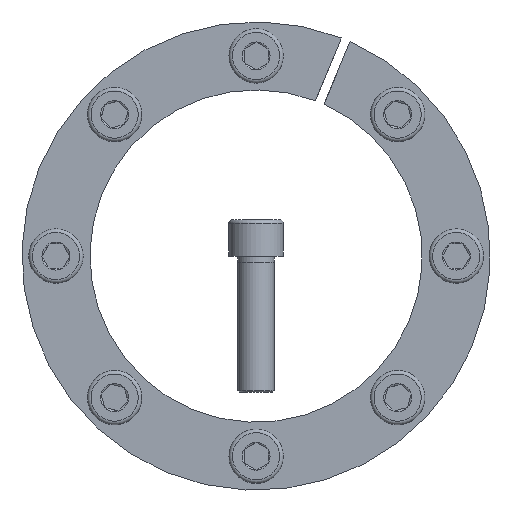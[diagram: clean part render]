
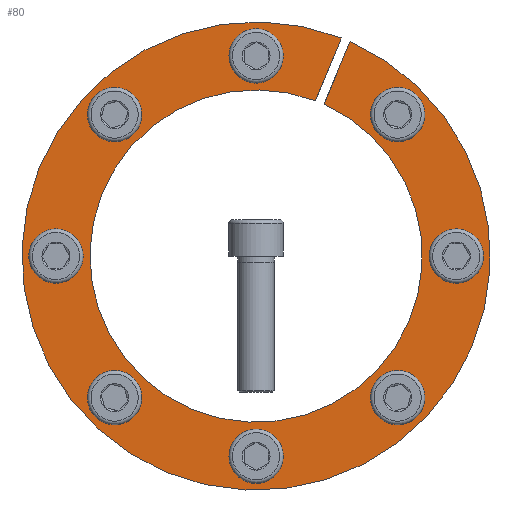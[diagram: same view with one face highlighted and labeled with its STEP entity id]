
A CAD part, front view. The second image highlights one B-rep face of the part: STEP entity #80.
In plain terms, the highlighted planar face has unit normal (0, -1, 0).
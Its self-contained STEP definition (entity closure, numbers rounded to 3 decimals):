
#80 = ADVANCED_FACE( '', ( #185, #186, #187, #188, #189, #190, #191, #192, #193 ), #194, .T. );
#185 = FACE_BOUND( '', #353, .T. );
#186 = FACE_BOUND( '', #354, .T. );
#187 = FACE_BOUND( '', #355, .T. );
#188 = FACE_BOUND( '', #356, .T. );
#189 = FACE_BOUND( '', #357, .T. );
#190 = FACE_BOUND( '', #358, .T. );
#191 = FACE_BOUND( '', #359, .T. );
#192 = FACE_BOUND( '', #360, .T. );
#193 = FACE_OUTER_BOUND( '', #361, .T. );
#194 = PLANE( '', #362 );
#353 = EDGE_LOOP( '', ( #558 ) );
#354 = EDGE_LOOP( '', ( #559 ) );
#355 = EDGE_LOOP( '', ( #560 ) );
#356 = EDGE_LOOP( '', ( #561 ) );
#357 = EDGE_LOOP( '', ( #562 ) );
#358 = EDGE_LOOP( '', ( #563 ) );
#359 = EDGE_LOOP( '', ( #564 ) );
#360 = EDGE_LOOP( '', ( #565 ) );
#361 = EDGE_LOOP( '', ( #566, #567, #568, #569 ) );
#362 = AXIS2_PLACEMENT_3D( '', #570, #571, #572 );
#558 = ORIENTED_EDGE( '', *, *, #839, .T. );
#559 = ORIENTED_EDGE( '', *, *, #862, .T. );
#560 = ORIENTED_EDGE( '', *, *, #863, .T. );
#561 = ORIENTED_EDGE( '', *, *, #864, .T. );
#562 = ORIENTED_EDGE( '', *, *, #865, .T. );
#563 = ORIENTED_EDGE( '', *, *, #866, .T. );
#564 = ORIENTED_EDGE( '', *, *, #867, .T. );
#565 = ORIENTED_EDGE( '', *, *, #868, .T. );
#566 = ORIENTED_EDGE( '', *, *, #869, .F. );
#567 = ORIENTED_EDGE( '', *, *, #870, .T. );
#568 = ORIENTED_EDGE( '', *, *, #871, .T. );
#569 = ORIENTED_EDGE( '', *, *, #872, .T. );
#570 = CARTESIAN_POINT( '', ( 0., 0., 55. ) );
#571 = DIRECTION( '', ( 0., -1., 0. ) );
#572 = DIRECTION( '', ( 0., 0., -1. ) );
#839 = EDGE_CURVE( '', #998, #998, #999, .T. );
#862 = EDGE_CURVE( '', #1040, #1040, #1041, .T. );
#863 = EDGE_CURVE( '', #1042, #1042, #1043, .T. );
#864 = EDGE_CURVE( '', #1044, #1044, #1045, .T. );
#865 = EDGE_CURVE( '', #1046, #1046, #1047, .T. );
#866 = EDGE_CURVE( '', #1048, #1048, #1049, .T. );
#867 = EDGE_CURVE( '', #1050, #1050, #1051, .T. );
#868 = EDGE_CURVE( '', #1052, #1052, #1053, .T. );
#869 = EDGE_CURVE( '', #1054, #1055, #1056, .T. );
#870 = EDGE_CURVE( '', #1054, #1057, #1058, .T. );
#871 = EDGE_CURVE( '', #1057, #1059, #1060, .T. );
#872 = EDGE_CURVE( '', #1059, #1055, #1061, .T. );
#998 = VERTEX_POINT( '', #1297 );
#999 = CIRCLE( '', #1298, 6. );
#1040 = VERTEX_POINT( '', #1343 );
#1041 = CIRCLE( '', #1344, 6. );
#1042 = VERTEX_POINT( '', #1345 );
#1043 = CIRCLE( '', #1346, 6. );
#1044 = VERTEX_POINT( '', #1347 );
#1045 = CIRCLE( '', #1348, 6. );
#1046 = VERTEX_POINT( '', #1349 );
#1047 = CIRCLE( '', #1350, 6. );
#1048 = VERTEX_POINT( '', #1351 );
#1049 = CIRCLE( '', #1352, 6. );
#1050 = VERTEX_POINT( '', #1353 );
#1051 = CIRCLE( '', #1354, 6. );
#1052 = VERTEX_POINT( '', #1355 );
#1053 = CIRCLE( '', #1356, 6. );
#1054 = VERTEX_POINT( '', #1357 );
#1055 = VERTEX_POINT( '', #1358 );
#1056 = CIRCLE( '', #1359, 55. );
#1057 = VERTEX_POINT( '', #1360 );
#1058 = LINE( '', #1361, #1362 );
#1059 = VERTEX_POINT( '', #1363 );
#1060 = CIRCLE( '', #1364, 77.5 );
#1061 = LINE( '', #1365, #1366 );
#1297 = CARTESIAN_POINT( '', ( 6., 0., 66.25 ) );
#1298 = AXIS2_PLACEMENT_3D( '', #1517, #1518, #1519 );
#1343 = CARTESIAN_POINT( '', ( 51.088, 0., 42.603 ) );
#1344 = AXIS2_PLACEMENT_3D( '', #1566, #1567, #1568 );
#1345 = CARTESIAN_POINT( '', ( 66.25, 0., -6. ) );
#1346 = AXIS2_PLACEMENT_3D( '', #1569, #1570, #1571 );
#1347 = CARTESIAN_POINT( '', ( 42.603, 0., -51.088 ) );
#1348 = AXIS2_PLACEMENT_3D( '', #1572, #1573, #1574 );
#1349 = CARTESIAN_POINT( '', ( -6., 0., -66.25 ) );
#1350 = AXIS2_PLACEMENT_3D( '', #1575, #1576, #1577 );
#1351 = CARTESIAN_POINT( '', ( -51.088, 0., -42.603 ) );
#1352 = AXIS2_PLACEMENT_3D( '', #1578, #1579, #1580 );
#1353 = CARTESIAN_POINT( '', ( -66.25, 0., 6. ) );
#1354 = AXIS2_PLACEMENT_3D( '', #1581, #1582, #1583 );
#1355 = CARTESIAN_POINT( '', ( -42.603, 0., 51.088 ) );
#1356 = AXIS2_PLACEMENT_3D( '', #1584, #1585, #1586 );
#1357 = CARTESIAN_POINT( '', ( 19.607, 0., 51.386 ) );
#1358 = CARTESIAN_POINT( '', ( 22.471, 0., 50.2 ) );
#1359 = AXIS2_PLACEMENT_3D( '', #1587, #1588, #1589 );
#1360 = CARTESIAN_POINT( '', ( 28.22, 0., 72.18 ) );
#1361 = CARTESIAN_POINT( '', ( 19.607, 0., 51.386 ) );
#1362 = VECTOR( '', #1590, 1000. );
#1363 = CARTESIAN_POINT( '', ( 31.084, 0., 70.993 ) );
#1364 = AXIS2_PLACEMENT_3D( '', #1591, #1592, #1593 );
#1365 = CARTESIAN_POINT( '', ( 31.09, 0., 71.008 ) );
#1366 = VECTOR( '', #1594, 1000. );
#1517 = CARTESIAN_POINT( '', ( 0., 0., 66.25 ) );
#1518 = DIRECTION( '', ( 0., 1., 0. ) );
#1519 = DIRECTION( '', ( 1., 0., 0. ) );
#1566 = CARTESIAN_POINT( '', ( 46.846, 0., 46.846 ) );
#1567 = DIRECTION( '', ( 0., 1., 0. ) );
#1568 = DIRECTION( '', ( 0.707, 0., -0.707 ) );
#1569 = CARTESIAN_POINT( '', ( 66.25, 0., 0. ) );
#1570 = DIRECTION( '', ( 0., 1., 0. ) );
#1571 = DIRECTION( '', ( 0., 0., -1. ) );
#1572 = CARTESIAN_POINT( '', ( 46.846, 0., -46.846 ) );
#1573 = DIRECTION( '', ( 0., 1., 0. ) );
#1574 = DIRECTION( '', ( -0.707, 0., -0.707 ) );
#1575 = CARTESIAN_POINT( '', ( 0., 0., -66.25 ) );
#1576 = DIRECTION( '', ( 0., 1., 0. ) );
#1577 = DIRECTION( '', ( -1., 0., 0. ) );
#1578 = CARTESIAN_POINT( '', ( -46.846, 0., -46.846 ) );
#1579 = DIRECTION( '', ( 0., 1., 0. ) );
#1580 = DIRECTION( '', ( -0.707, 0., 0.707 ) );
#1581 = CARTESIAN_POINT( '', ( -66.25, 0., 0. ) );
#1582 = DIRECTION( '', ( 0., 1., 0. ) );
#1583 = DIRECTION( '', ( 0., 0., 1. ) );
#1584 = CARTESIAN_POINT( '', ( -46.846, 0., 46.846 ) );
#1585 = DIRECTION( '', ( 0., 1., 0. ) );
#1586 = DIRECTION( '', ( 0.707, 0., 0.707 ) );
#1587 = CARTESIAN_POINT( '', ( 0., 0., 0. ) );
#1588 = DIRECTION( '', ( 0., -1., 0. ) );
#1589 = DIRECTION( '', ( 0., 0., -1. ) );
#1590 = DIRECTION( '', ( 0.383, 0., 0.924 ) );
#1591 = CARTESIAN_POINT( '', ( 0., 0., 0. ) );
#1592 = DIRECTION( '', ( 0., -1., 0. ) );
#1593 = DIRECTION( '', ( 0., 0., -1. ) );
#1594 = DIRECTION( '', ( -0.383, 0., -0.924 ) );
